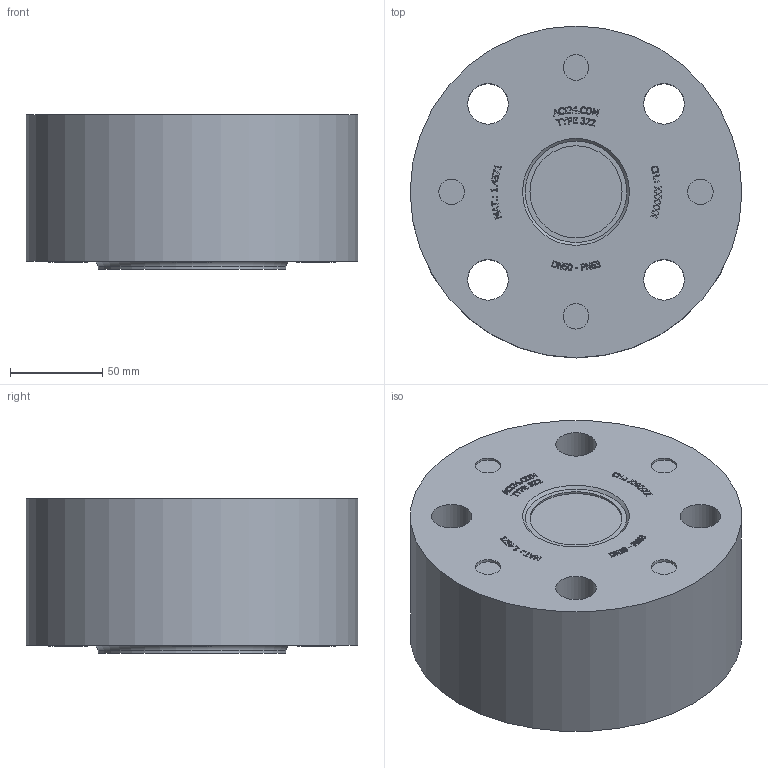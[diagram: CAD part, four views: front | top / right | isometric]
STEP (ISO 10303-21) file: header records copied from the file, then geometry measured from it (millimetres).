
FILE_DESCRIPTION(/* description */ ('ACI TYPE 322 DN 50 PN63'),/* implementation_level */ '2;1');
FILE_NAME(/* name */ 'W:\Konstruktion_ACI\322\ACI-322-50-63.stp',/* time_stamp */ '2020-04-21T10:54:15+02:00',/* author */ ('Götz'),/* organization */ ('ACI Industriearmaturen GmbH info@aci24.com www.aci24.com'),/* preprocessor_version */ 'ST-DEVELOPER v16.1',/* originating_system */ 'Autodesk Inventor 2016',/* authorisation */ 'ACI Industriearmaturen GmbH info@aci24.com www.aci24.com');
FILE_SCHEMA (('CONFIG_CONTROL_DESIGN'));
Length unit declared in the file: centimetre
Products named in the file (1): ACI-322-50-63
Bounding box: 180 x 180 x 84 mm (x, y, z)
Volume: 1924112.7 mm3; surface area: 117356 mm2
Topology: 1 solids, 1 shells, 710 faces, 1912 edges, 1278 vertices
Faces by surface type: plane 476, bspline 216, cylinder 12, torus 5, cone 1
Full cylindrical faces by diameter (mm): 13.835 x4, 22 x4, 50 x2, 102 x1, 180 x1
Entity records: 23684 total; most frequent: CARTESIAN_POINT 6669, ORIENTED_EDGE 3766, DIRECTION 2476, EDGE_CURVE 1883, LINE 1416, VECTOR 1416, VERTEX_POINT 1267, EDGE_LOOP 810
